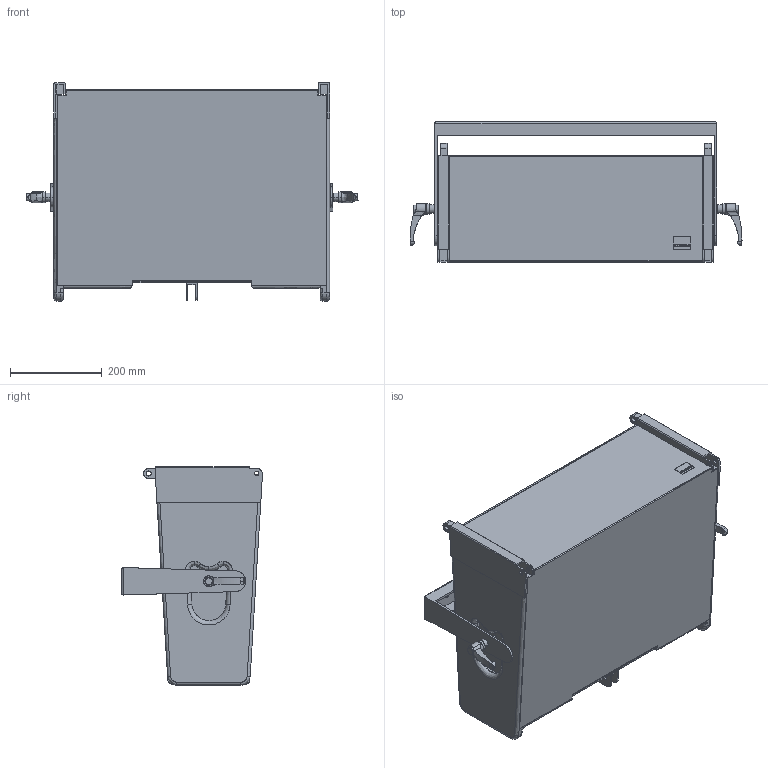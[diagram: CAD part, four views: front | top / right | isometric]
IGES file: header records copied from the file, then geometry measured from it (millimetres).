
Start section: SolidWorks IGES file using analytic representation for surfaces
Global section: file name: C:\Dokumente und Einstellungen\PC_Fabian\Desktop\Galeo_und_Co\Seeburg_Galeo_Bracket-hor.IGS; native system: SolidWorks 2009; preprocessor: SolidWorks 2009; author: PC_Fabian; date: 121017.113240; units: millimetre
Bounding box: 722.33 x 306.65 x 475 mm (x, y, z)
Surface area: 2683132.4 mm2 (no closed solid volume)
Topology: 0 solids, 0 shells, 711 faces, 9304 edges, 9304 vertices
Faces by surface type: bspline 374, revolution 337
